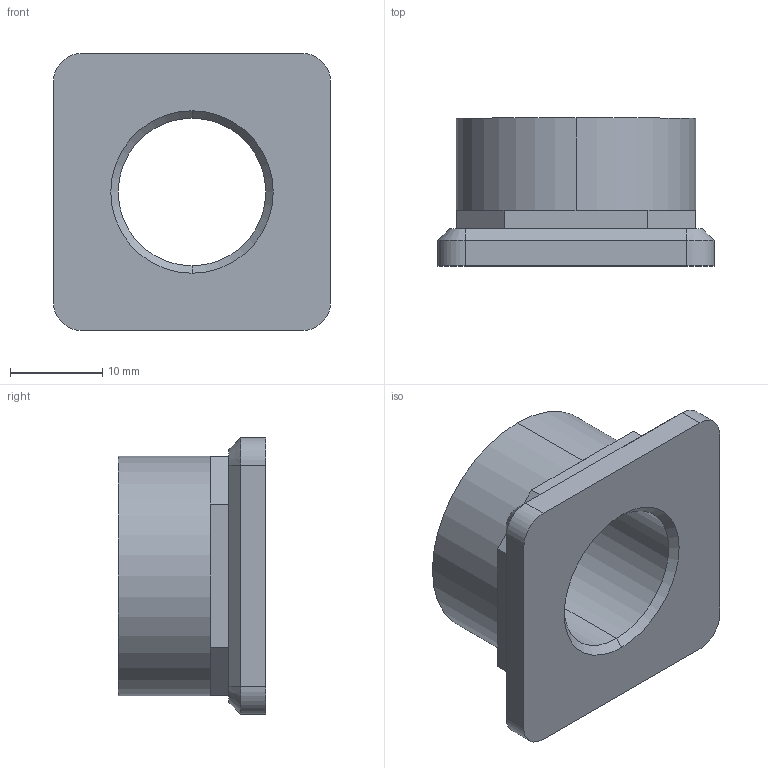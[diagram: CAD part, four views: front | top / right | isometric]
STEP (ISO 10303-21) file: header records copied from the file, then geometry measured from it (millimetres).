
FILE_DESCRIPTION (( 'STEP AP203' ), '1' );
FILE_NAME ('34670.W0031.step', '2017-06-26T08:12:29', ( 'User' ), ( '' ), 'SwSTEP 2.0', 'SolidWorks 2009', '' );
FILE_SCHEMA (( 'CONFIG_CONTROL_DESIGN' ));
Length unit declared in the file: millimetre
Products named in the file (1): 34670.W0031
Bounding box: 30 x 16 x 30 mm (x, y, z)
Volume: 6780.1 mm3; surface area: 3512.8 mm2
Topology: 1 solids, 1 shells, 39 faces, 90 edges, 54 vertices
Faces by surface type: plane 23, cone 8, cylinder 8
Entity records: 1167 total; most frequent: DIRECTION 196, CARTESIAN_POINT 184, ORIENTED_EDGE 180, EDGE_CURVE 90, AXIS2_PLACEMENT_3D 66, LINE 64, VECTOR 64, VERTEX_POINT 54
